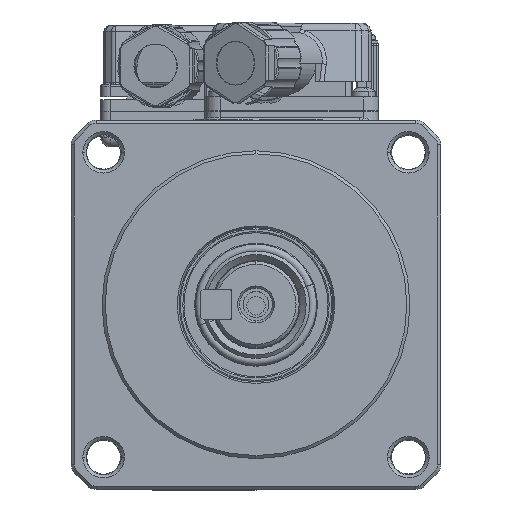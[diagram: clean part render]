
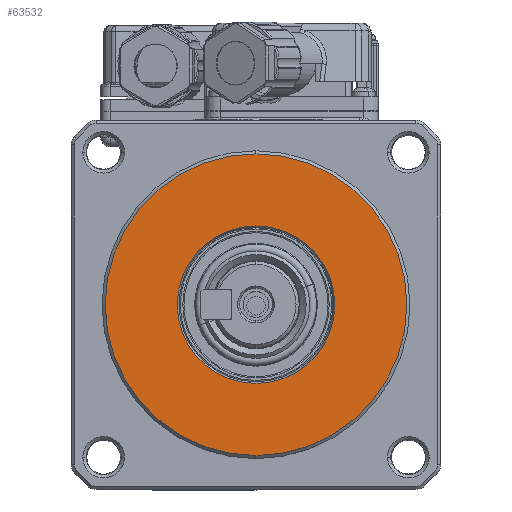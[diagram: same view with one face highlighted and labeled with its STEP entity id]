
A CAD part, top view. The second image highlights one B-rep face of the part: STEP entity #63532.
In plain terms, the highlighted planar face has unit normal (0, 0, 1).
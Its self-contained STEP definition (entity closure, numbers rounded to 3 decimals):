
#504 = CARTESIAN_POINT ( 'NONE',  ( 0., 12.2, 0. ) ) ;
#1501 = AXIS2_PLACEMENT_3D ( 'NONE', #32822, #26427, #57830 ) ;
#2273 = ORIENTED_EDGE ( 'NONE', *, *, #66203, .F. ) ;
#5979 = ORIENTED_EDGE ( 'NONE', *, *, #40312, .F. ) ;
#6607 = CIRCLE ( 'NONE', #1501, 24.5 ) ;
#14072 = DIRECTION ( 'NONE',  ( 0., 0., 1. ) ) ;
#14809 = VERTEX_POINT ( 'NONE', #37445 ) ;
#18125 = CIRCLE ( 'NONE', #33457, 12.789 ) ;
#19259 = DIRECTION ( 'NONE',  ( 0., -1., 0. ) ) ;
#19542 = EDGE_CURVE ( 'NONE', #14809, #65336, #6607, .T. ) ;
#22929 = EDGE_LOOP ( 'NONE', ( #2273, #5979 ) ) ;
#25452 = AXIS2_PLACEMENT_3D ( 'NONE', #39972, #75717, #64467 ) ;
#26052 = CARTESIAN_POINT ( 'NONE',  ( 0., 0., 0. ) ) ;
#26427 = DIRECTION ( 'NONE',  ( 0., 0., 1. ) ) ;
#26545 = AXIS2_PLACEMENT_3D ( 'NONE', #53106, #72745, #47125 ) ;
#31827 = VERTEX_POINT ( 'NONE', #68863 ) ;
#32822 = CARTESIAN_POINT ( 'NONE',  ( 0., 0., 0. ) ) ;
#33299 = ORIENTED_EDGE ( 'NONE', *, *, #19542, .T. ) ;
#33457 = AXIS2_PLACEMENT_3D ( 'NONE', #26052, #14072, #19259 ) ;
#34316 = FACE_BOUND ( 'NONE', #22929, .T. ) ;
#37445 = CARTESIAN_POINT ( 'NONE',  ( 0., 24.5, 0. ) ) ;
#39972 = CARTESIAN_POINT ( 'NONE',  ( 0., 0., 0. ) ) ;
#40312 = EDGE_CURVE ( 'NONE', #43439, #31827, #46086, .T. ) ;
#42599 = AXIS2_PLACEMENT_3D ( 'NONE', #504, #62333, #42695 ) ;
#42695 = DIRECTION ( 'NONE',  ( -1., 0., 0. ) ) ;
#43431 = CARTESIAN_POINT ( 'NONE',  ( 0., 12.789, 0. ) ) ;
#43439 = VERTEX_POINT ( 'NONE', #43431 ) ;
#45226 = CARTESIAN_POINT ( 'NONE',  ( 0., -24.5, 0. ) ) ;
#46086 = CIRCLE ( 'NONE', #25452, 12.789 ) ;
#47125 = DIRECTION ( 'NONE',  ( 0., -1., 0. ) ) ;
#47454 = EDGE_LOOP ( 'NONE', ( #33299, #54578 ) ) ;
#53106 = CARTESIAN_POINT ( 'NONE',  ( 0., 0., 0. ) ) ;
#54578 = ORIENTED_EDGE ( 'NONE', *, *, #60684, .T. ) ;
#57830 = DIRECTION ( 'NONE',  ( 0., -1., 0. ) ) ;
#58527 = PLANE ( 'NONE',  #42599 ) ;
#60684 = EDGE_CURVE ( 'NONE', #65336, #14809, #61220, .T. ) ;
#61220 = CIRCLE ( 'NONE', #26545, 24.5 ) ;
#62333 = DIRECTION ( 'NONE',  ( 0., 0., -1. ) ) ;
#63532 = ADVANCED_FACE ( 'NONE', ( #34316, #71700 ), #58527, .F. ) ;
#64467 = DIRECTION ( 'NONE',  ( 0., -1., 0. ) ) ;
#65336 = VERTEX_POINT ( 'NONE', #45226 ) ;
#66203 = EDGE_CURVE ( 'NONE', #31827, #43439, #18125, .T. ) ;
#68863 = CARTESIAN_POINT ( 'NONE',  ( 0., -12.789, 0. ) ) ;
#71700 = FACE_OUTER_BOUND ( 'NONE', #47454, .T. ) ;
#72745 = DIRECTION ( 'NONE',  ( 0., 0., 1. ) ) ;
#75717 = DIRECTION ( 'NONE',  ( 0., 0., 1. ) ) ;
